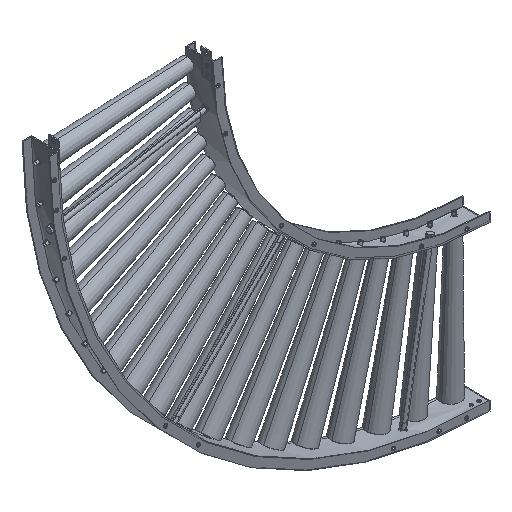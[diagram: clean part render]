
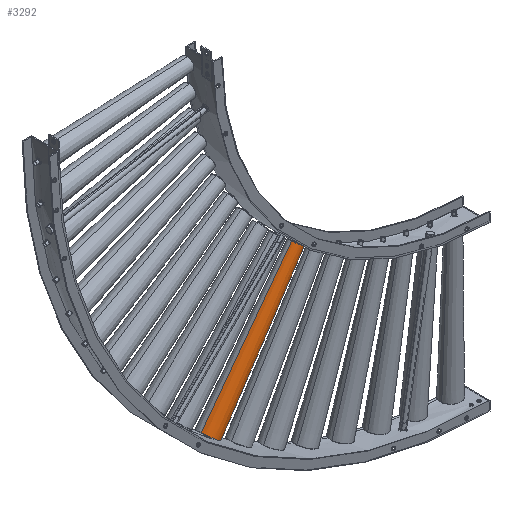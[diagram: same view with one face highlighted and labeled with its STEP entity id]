
A CAD part, isometric view. The second image highlights one B-rep face of the part: STEP entity #3292.
In plain terms, the highlighted conical face has half-angle 1.304 degrees and reference radius 32.5 mm.
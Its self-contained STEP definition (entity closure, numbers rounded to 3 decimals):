
#706 = EDGE_LOOP ( 'NONE', ( #17686, #14935, #31973, #8975 ) ) ;
#832 = CIRCLE ( 'NONE', #23134, 21.372 ) ;
#1013 = VERTEX_POINT ( 'NONE', #14494 ) ;
#1583 = LINE ( 'NONE', #4932, #2979 ) ;
#2700 = CARTESIAN_POINT ( 'NONE',  ( -115.813, -34.892, -656.672 ) ) ;
#2979 = VECTOR ( 'NONE', #28742, 1000. ) ;
#3292 = ADVANCED_FACE ( 'NONE', ( #10014 ), #26016, .T. ) ;
#3463 = VECTOR ( 'NONE', #31411, 1000. ) ;
#4816 = EDGE_CURVE ( 'NONE', #15363, #1013, #11805, .T. ) ;
#4932 = CARTESIAN_POINT ( 'NONE',  ( -90.234, -31.362, -676.407 ) ) ;
#5093 = AXIS2_PLACEMENT_3D ( 'NONE', #28809, #7006, #24404 ) ;
#5246 = AXIS2_PLACEMENT_3D ( 'NONE', #2700, #7262, #12602 ) ;
#5780 = VERTEX_POINT ( 'NONE', #8980 ) ;
#7006 = DIRECTION ( 'NONE',  ( 0.609, 0.024, 0.793 ) ) ;
#7262 = DIRECTION ( 'NONE',  ( -0.609, -0.024, -0.793 ) ) ;
#8975 = ORIENTED_EDGE ( 'NONE', *, *, #4816, .T. ) ;
#8980 = CARTESIAN_POINT ( 'NONE',  ( 198.621, -20.837, -281.794 ) ) ;
#10014 = FACE_OUTER_BOUND ( 'NONE', #706, .T. ) ;
#11567 = CARTESIAN_POINT ( 'NONE',  ( -141.393, -38.422, -636.937 ) ) ;
#11805 = CIRCLE ( 'NONE', #5093, 32.477 ) ;
#12602 = DIRECTION ( 'NONE',  ( -0.787, -0.109, 0.607 ) ) ;
#14494 = CARTESIAN_POINT ( 'NONE',  ( -89.629, -31.34, -675.581 ) ) ;
#14935 = ORIENTED_EDGE ( 'NONE', *, *, #28526, .T. ) ;
#15363 = VERTEX_POINT ( 'NONE', #30171 ) ;
#16538 = VERTEX_POINT ( 'NONE', #24516 ) ;
#17012 = CARTESIAN_POINT ( 'NONE',  ( 181.799, -23.159, -268.816 ) ) ;
#17686 = ORIENTED_EDGE ( 'NONE', *, *, #25560, .F. ) ;
#19142 = DIRECTION ( 'NONE',  ( -0.609, -0.024, -0.793 ) ) ;
#23134 = AXIS2_PLACEMENT_3D ( 'NONE', #17012, #19142, #31823 ) ;
#23933 = LINE ( 'NONE', #11567, #3463 ) ;
#24404 = DIRECTION ( 'NONE',  ( 0.787, 0.109, -0.607 ) ) ;
#24516 = CARTESIAN_POINT ( 'NONE',  ( 164.978, -25.48, -255.838 ) ) ;
#25560 = EDGE_CURVE ( 'NONE', #5780, #1013, #1583, .T. ) ;
#26016 = CONICAL_SURFACE ( 'NONE', #5246, 32.5, 0.023 ) ;
#28526 = EDGE_CURVE ( 'NONE', #5780, #16538, #832, .T. ) ;
#28742 = DIRECTION ( 'NONE',  ( -0.591, -0.022, -0.807 ) ) ;
#28809 = CARTESIAN_POINT ( 'NONE',  ( -115.191, -34.867, -655.861 ) ) ;
#29310 = EDGE_CURVE ( 'NONE', #16538, #15363, #23933, .T. ) ;
#30171 = CARTESIAN_POINT ( 'NONE',  ( -140.752, -38.395, -636.14 ) ) ;
#31411 = DIRECTION ( 'NONE',  ( -0.626, -0.026, -0.779 ) ) ;
#31823 = DIRECTION ( 'NONE',  ( 0.787, 0.109, -0.607 ) ) ;
#31973 = ORIENTED_EDGE ( 'NONE', *, *, #29310, .T. ) ;
